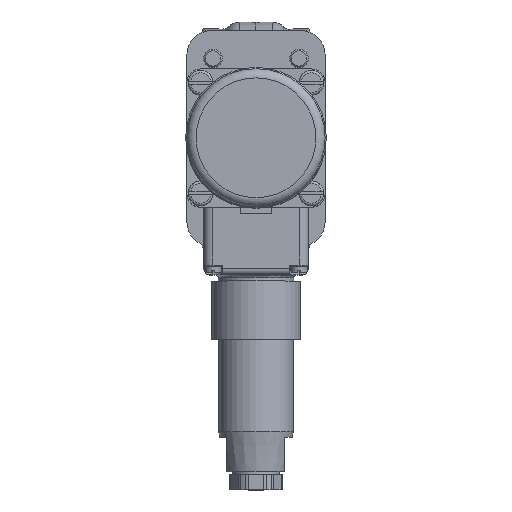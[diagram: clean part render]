
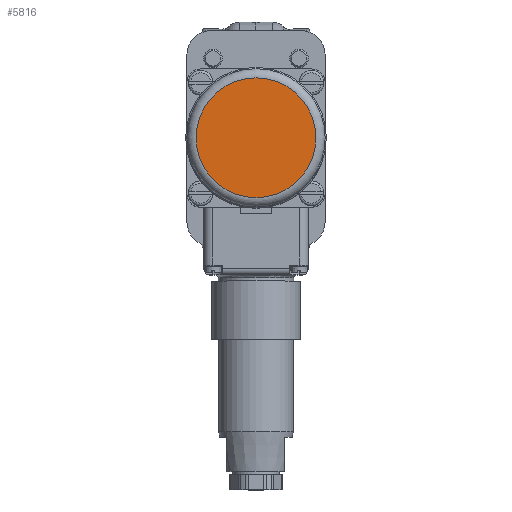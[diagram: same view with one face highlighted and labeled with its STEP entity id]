
A CAD part, top view. The second image highlights one B-rep face of the part: STEP entity #5816.
In plain terms, the highlighted planar face has unit normal (0, 0, 1) as drawn and (1, 0, 0) by its records, which use the part's own axes.
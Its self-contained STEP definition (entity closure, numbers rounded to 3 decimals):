
#4271=FACE_OUTER_BOUND('',#8252,.T.);
#4963=CIRCLE('',#21197,19.5);
#5816=ADVANCED_FACE('',(#4271),#6570,.T.);
#6570=PLANE('',#21199);
#8252=EDGE_LOOP('',(#11351));
#11351=ORIENTED_EDGE('',*,*,#16608,.T.);
#14519=VERTEX_POINT('',#31591);
#16608=EDGE_CURVE('',#14519,#14519,#4963,.T.);
#21197=AXIS2_PLACEMENT_3D('',#31590,#24344,#24345);
#21199=AXIS2_PLACEMENT_3D('',#31593,#24348,#24349);
#24344=DIRECTION('',(1.,0.,0.));
#24345=DIRECTION('',(0.,0.,-1.));
#24348=DIRECTION('',(1.,0.,0.));
#24349=DIRECTION('',(0.,0.,-1.));
#31590=CARTESIAN_POINT('',(57.,0.,0.));
#31591=CARTESIAN_POINT('',(57.,0.,-19.5));
#31593=CARTESIAN_POINT('',(57.,0.,0.));
